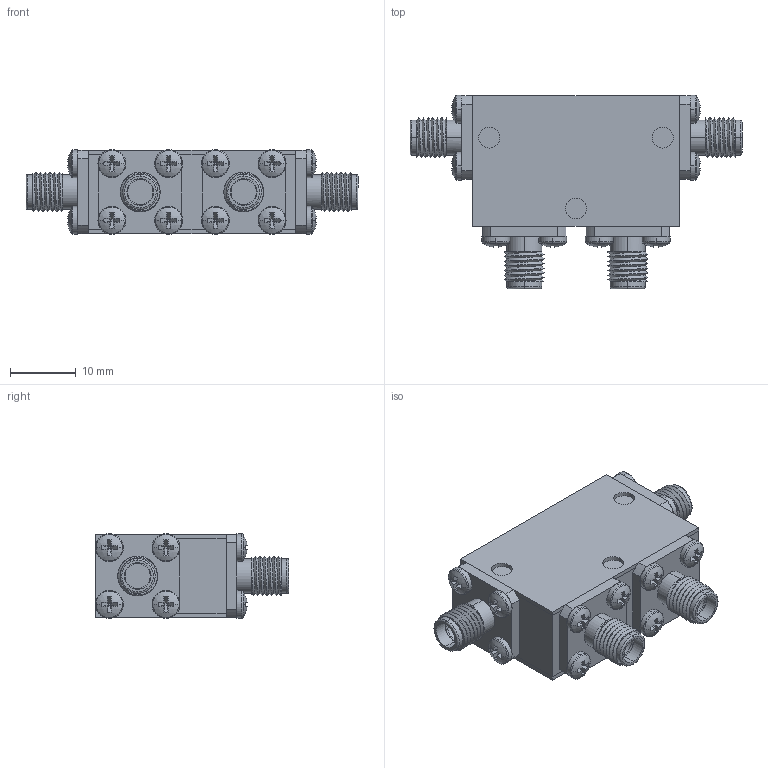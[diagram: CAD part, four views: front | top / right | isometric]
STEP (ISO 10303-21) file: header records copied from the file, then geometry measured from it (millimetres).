
FILE_DESCRIPTION (( 'STEP AP214' ), '1' );
FILE_NAME ('Package 15 Circ FFFF.step', '2021-12-01T20:58:15', ( '' ), ( '' ), 'SwSTEP 2.0', 'SolidWorks 2016', '' );
FILE_SCHEMA (( 'AUTOMOTIVE_DESIGN' ));
Length unit declared in the file: inch
Products named in the file (5): pan cross head_ai_CR-PHMS 0.086-56x0.125x0.125-N; Delta SMA-Female 0.500 flange Threaded; Package 15 Circ FFFF; Package 15; Package Size 15
Assembly tree (22 placements, depth 2):
  Package 15 Circ FFFF
    Package 15
    Delta SMA-Female 0.500 flange Threaded  x4
    pan cross head_ai_CR-PHMS 0.086-56x0.125x0.125-N  x16
    Package Size 15
Bounding box: 50.55 x 29.43 x 12.88 mm (x, y, z)
Volume: 9505.9 mm3; surface area: 9454.6 mm2
Topology: 22 solids, 22 shells, 552 faces, 1252 edges, 772 vertices
Faces by surface type: plane 304, cylinder 164, torus 40, sphere 32, bspline 12
Entity records: 3769 total; most frequent: CARTESIAN_POINT 1210, DIRECTION 537, ORIENTED_EDGE 434, EDGE_CURVE 217, AXIS2_PLACEMENT_3D 216, VERTEX_POINT 139, EDGE_LOOP 116, VECTOR 105
